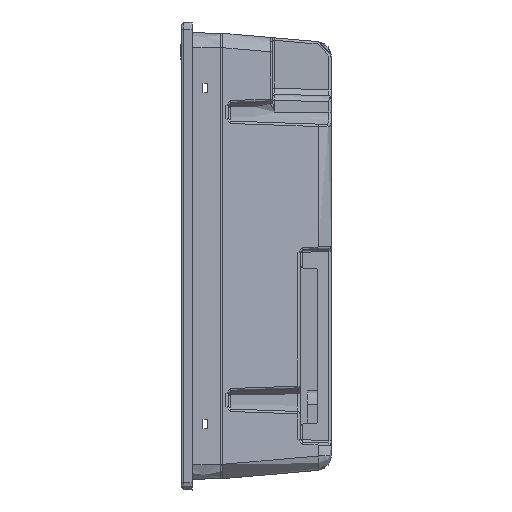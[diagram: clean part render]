
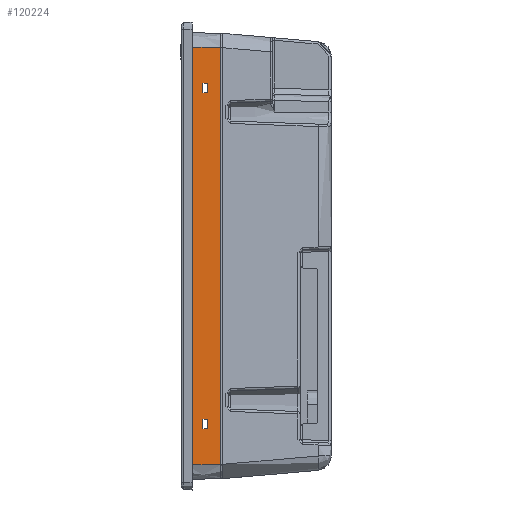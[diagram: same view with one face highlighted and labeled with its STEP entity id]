
A CAD part, left-side view. The second image highlights one B-rep face of the part: STEP entity #120224.
In plain terms, the highlighted planar face has unit normal (-1, -0.018, 0).
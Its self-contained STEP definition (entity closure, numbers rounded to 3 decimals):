
#14574 = DIRECTION ( 'NONE',  ( 0.017, -1., 0. ) ) ;
#15958 = PLANE ( 'NONE',  #393269 ) ;
#34991 = EDGE_CURVE ( 'NONE', #55788, #326742, #354233, .T. ) ;
#36680 = EDGE_CURVE ( 'NONE', #215795, #265757, #301458, .T. ) ;
#41447 = CARTESIAN_POINT ( 'NONE',  ( -231.1, 5.3, 144. ) ) ;
#45196 = EDGE_LOOP ( 'NONE', ( #177663, #129743, #291230, #154022 ) ) ;
#55788 = VERTEX_POINT ( 'NONE', #389727 ) ;
#70234 = CARTESIAN_POINT ( 'NONE',  ( -230.781, -13., -144. ) ) ;
#71339 = DIRECTION ( 'NONE',  ( 0., 0., -1. ) ) ;
#85051 = LINE ( 'NONE', #132540, #208557 ) ;
#92391 = CARTESIAN_POINT ( 'NONE',  ( -230.781, -13., 144. ) ) ;
#92856 = DIRECTION ( 'NONE',  ( -0.017, 1., 0. ) ) ;
#95702 = CARTESIAN_POINT ( 'NONE',  ( -231.1, 5.3, 174.1 ) ) ;
#102114 = VECTOR ( 'NONE', #288638, 1000. ) ;
#108988 = LINE ( 'NONE', #291149, #304513 ) ;
#115715 = LINE ( 'NONE', #330050, #280381 ) ;
#120224 = ADVANCED_FACE ( 'NONE', ( #160160, #314389, #227038 ), #15958, .T. ) ;
#122883 = CARTESIAN_POINT ( 'NONE',  ( -230.85, -9., 144. ) ) ;
#129298 = EDGE_CURVE ( 'NONE', #301115, #373499, #233411, .T. ) ;
#129743 = ORIENTED_EDGE ( 'NONE', *, *, #374828, .T. ) ;
#130296 = ORIENTED_EDGE ( 'NONE', *, *, #181469, .T. ) ;
#132540 = CARTESIAN_POINT ( 'NONE',  ( -231.1, 5.3, -144. ) ) ;
#133083 = DIRECTION ( 'NONE',  ( 0., 0., -1. ) ) ;
#153336 = LINE ( 'NONE', #401347, #256027 ) ;
#154022 = ORIENTED_EDGE ( 'NONE', *, *, #36680, .T. ) ;
#160160 = FACE_BOUND ( 'NONE', #45196, .T. ) ;
#164717 = CARTESIAN_POINT ( 'NONE',  ( -231.1, 5.3, 174.1 ) ) ;
#167647 = VECTOR ( 'NONE', #199582, 1000. ) ;
#172063 = ORIENTED_EDGE ( 'NONE', *, *, #129298, .T. ) ;
#177663 = ORIENTED_EDGE ( 'NONE', *, *, #325309, .T. ) ;
#181469 = EDGE_CURVE ( 'NONE', #394384, #383220, #85051, .T. ) ;
#199582 = DIRECTION ( 'NONE',  ( -0.017, 1., 0. ) ) ;
#201396 = CARTESIAN_POINT ( 'NONE',  ( -230.597, -23.5, -174.1 ) ) ;
#206443 = VERTEX_POINT ( 'NONE', #248888 ) ;
#208304 = ORIENTED_EDGE ( 'NONE', *, *, #233992, .T. ) ;
#208557 = VECTOR ( 'NONE', #300747, 1000. ) ;
#214442 = DIRECTION ( 'NONE',  ( -1., -0.017, 0. ) ) ;
#215795 = VERTEX_POINT ( 'NONE', #122883 ) ;
#222648 = VECTOR ( 'NONE', #320226, 1000. ) ;
#225008 = CARTESIAN_POINT ( 'NONE',  ( -230.781, -13., -136. ) ) ;
#227038 = FACE_OUTER_BOUND ( 'NONE', #287314, .T. ) ;
#229167 = EDGE_CURVE ( 'NONE', #385043, #256418, #329230, .T. ) ;
#231518 = VECTOR ( 'NONE', #92856, 1000. ) ;
#233343 = CARTESIAN_POINT ( 'NONE',  ( -231.1, 5.3, -136. ) ) ;
#233411 = LINE ( 'NONE', #379516, #300221 ) ;
#233992 = EDGE_CURVE ( 'NONE', #326742, #394384, #115715, .T. ) ;
#239755 = ORIENTED_EDGE ( 'NONE', *, *, #277722, .T. ) ;
#242353 = ORIENTED_EDGE ( 'NONE', *, *, #397854, .F. ) ;
#248888 = CARTESIAN_POINT ( 'NONE',  ( -230.85, -9., 136. ) ) ;
#250224 = ORIENTED_EDGE ( 'NONE', *, *, #229167, .T. ) ;
#256027 = VECTOR ( 'NONE', #405597, 1000. ) ;
#256418 = VERTEX_POINT ( 'NONE', #164717 ) ;
#262123 = DIRECTION ( 'NONE',  ( 0.017, -1., 0. ) ) ;
#263555 = ORIENTED_EDGE ( 'NONE', *, *, #318750, .T. ) ;
#265363 = LINE ( 'NONE', #363413, #167647 ) ;
#265757 = VERTEX_POINT ( 'NONE', #92391 ) ;
#266151 = LINE ( 'NONE', #302881, #410014 ) ;
#266766 = LINE ( 'NONE', #324428, #102114 ) ;
#272402 = EDGE_CURVE ( 'NONE', #206443, #215795, #153336, .T. ) ;
#276782 = CARTESIAN_POINT ( 'NONE',  ( -231.1, 5.3, -174.1 ) ) ;
#277722 = EDGE_CURVE ( 'NONE', #373499, #385043, #108988, .T. ) ;
#279000 = DIRECTION ( 'NONE',  ( 0.017, -1., 0. ) ) ;
#280381 = VECTOR ( 'NONE', #133083, 1000. ) ;
#287314 = EDGE_LOOP ( 'NONE', ( #242353, #172063, #239755, #250224 ) ) ;
#288638 = DIRECTION ( 'NONE',  ( 0., 0., 1. ) ) ;
#291149 = CARTESIAN_POINT ( 'NONE',  ( -230.597, -23.5, -186.1 ) ) ;
#291230 = ORIENTED_EDGE ( 'NONE', *, *, #272402, .T. ) ;
#300221 = VECTOR ( 'NONE', #279000, 1000. ) ;
#300747 = DIRECTION ( 'NONE',  ( -0.017, 1., 0. ) ) ;
#301115 = VERTEX_POINT ( 'NONE', #276782 ) ;
#301458 = LINE ( 'NONE', #41447, #378575 ) ;
#302881 = CARTESIAN_POINT ( 'NONE',  ( -230.781, -13., -186.1 ) ) ;
#304513 = VECTOR ( 'NONE', #324094, 1000. ) ;
#304562 = DIRECTION ( 'NONE',  ( 0.017, -1., 0. ) ) ;
#314389 = FACE_BOUND ( 'NONE', #405902, .T. ) ;
#315042 = CARTESIAN_POINT ( 'NONE',  ( -230.85, -9., -144. ) ) ;
#318750 = EDGE_CURVE ( 'NONE', #383220, #55788, #266766, .T. ) ;
#320226 = DIRECTION ( 'NONE',  ( 0., 0., 1. ) ) ;
#323212 = VECTOR ( 'NONE', #262123, 1000. ) ;
#324094 = DIRECTION ( 'NONE',  ( 0., 0., 1. ) ) ;
#324428 = CARTESIAN_POINT ( 'NONE',  ( -230.85, -9., -186.1 ) ) ;
#325309 = EDGE_CURVE ( 'NONE', #265757, #370077, #266151, .T. ) ;
#326742 = VERTEX_POINT ( 'NONE', #225008 ) ;
#328184 = CARTESIAN_POINT ( 'NONE',  ( -230.597, -23.5, 174.1 ) ) ;
#329230 = LINE ( 'NONE', #95702, #231518 ) ;
#330050 = CARTESIAN_POINT ( 'NONE',  ( -230.781, -13., -186.1 ) ) ;
#346668 = CARTESIAN_POINT ( 'NONE',  ( -231.1, 5.3, -186.1 ) ) ;
#351384 = ORIENTED_EDGE ( 'NONE', *, *, #34991, .T. ) ;
#354233 = LINE ( 'NONE', #233343, #323212 ) ;
#357598 = CARTESIAN_POINT ( 'NONE',  ( -231.1, 5.3, -186.1 ) ) ;
#363413 = CARTESIAN_POINT ( 'NONE',  ( -231.1, 5.3, 136. ) ) ;
#370077 = VERTEX_POINT ( 'NONE', #398758 ) ;
#373499 = VERTEX_POINT ( 'NONE', #201396 ) ;
#374828 = EDGE_CURVE ( 'NONE', #370077, #206443, #265363, .T. ) ;
#378575 = VECTOR ( 'NONE', #304562, 1000. ) ;
#379516 = CARTESIAN_POINT ( 'NONE',  ( -231.1, 5.3, -174.1 ) ) ;
#383220 = VERTEX_POINT ( 'NONE', #315042 ) ;
#385043 = VERTEX_POINT ( 'NONE', #328184 ) ;
#389727 = CARTESIAN_POINT ( 'NONE',  ( -230.85, -9., -136. ) ) ;
#393269 = AXIS2_PLACEMENT_3D ( 'NONE', #346668, #214442, #14574 ) ;
#394384 = VERTEX_POINT ( 'NONE', #70234 ) ;
#397854 = EDGE_CURVE ( 'NONE', #301115, #256418, #418022, .T. ) ;
#398758 = CARTESIAN_POINT ( 'NONE',  ( -230.781, -13., 136. ) ) ;
#401347 = CARTESIAN_POINT ( 'NONE',  ( -230.85, -9., -186.1 ) ) ;
#405597 = DIRECTION ( 'NONE',  ( 0., 0., 1. ) ) ;
#405902 = EDGE_LOOP ( 'NONE', ( #208304, #130296, #263555, #351384 ) ) ;
#410014 = VECTOR ( 'NONE', #71339, 1000. ) ;
#418022 = LINE ( 'NONE', #357598, #222648 ) ;
